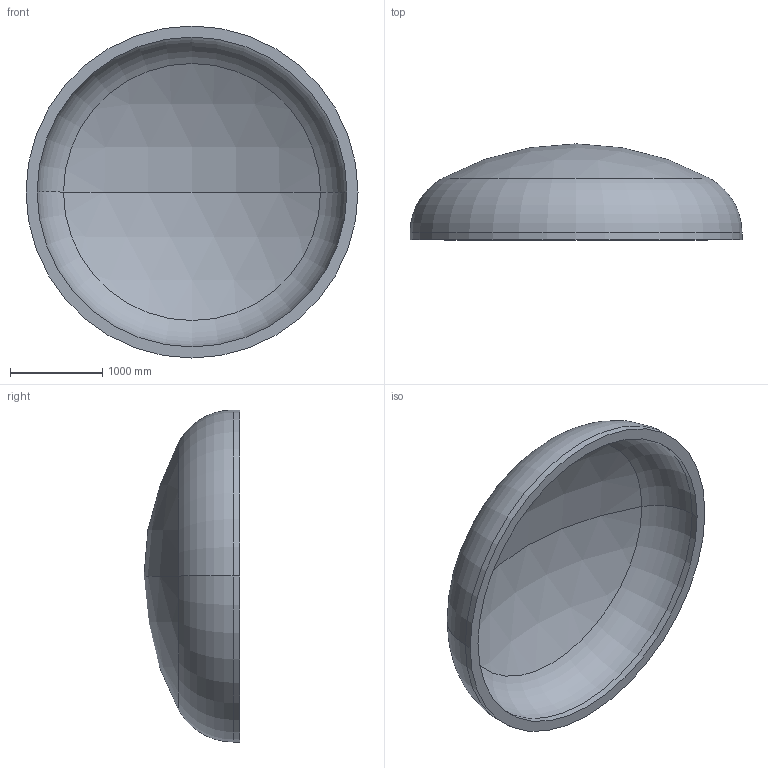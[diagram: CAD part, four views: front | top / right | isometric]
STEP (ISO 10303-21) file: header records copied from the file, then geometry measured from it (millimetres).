
FILE_DESCRIPTION (( 'STEP AP203' ), '1' );
FILE_NAME ('DIN 28013 Korbbogenform_-_Boden DIN 28013 - 3600 x 75 - I - s=120.step', '2016-07-01T20:55:58', ( '' ), ( '' ), 'SwSTEP 2.0', 'SolidWorks 2013', '' );
FILE_SCHEMA (( 'CONFIG_CONTROL_DESIGN' ));
Length unit declared in the file: millimetre
Products named in the file (1): DIN 28013 Korbbogenform_-_Boden DIN 28013 - 3600 x 75 - I - s=120
Bounding box: 3600 x 1040.3 x 3600 mm (x, y, z)
Volume: 1718545507.5 mm3; surface area: 29984504 mm2
Topology: 1 solids, 1 shells, 13 faces, 24 edges, 14 vertices
Faces by surface type: torus 4, cylinder 4, sphere 4, plane 1
Entity records: 407 total; most frequent: DIRECTION 72, CARTESIAN_POINT 52, ORIENTED_EDGE 48, AXIS2_PLACEMENT_3D 34, EDGE_CURVE 24, CIRCLE 20, EDGE_LOOP 14, VERTEX_POINT 14
